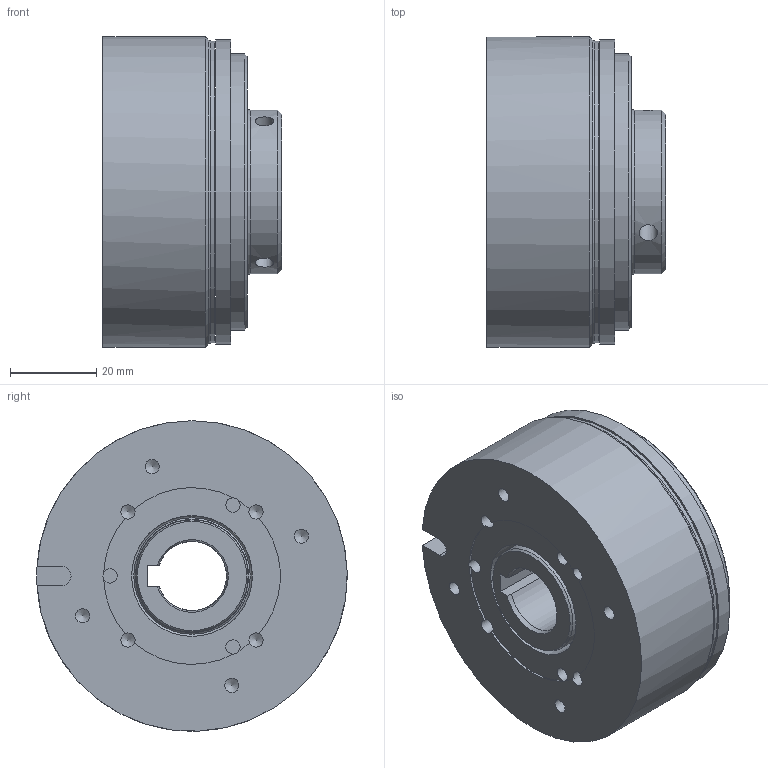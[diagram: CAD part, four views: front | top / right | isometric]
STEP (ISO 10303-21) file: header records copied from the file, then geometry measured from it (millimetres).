
FILE_DESCRIPTION (( 'STEP AP203' ), '1' );
FILE_NAME ('86_61107P00-0011_Idx_h.STEP', '2022-02-15T13:20:34', ( '' ), ( '' ), 'SwSTEP 2.0', 'SolidWorks 2018', '' );
FILE_SCHEMA (( 'CONFIG_CONTROL_DESIGN' ));
Length unit declared in the file: millimetre
Products named in the file (1): 86_61107P00-0011_Idx_h
Bounding box: 41.52 x 72 x 72 mm (x, y, z)
Volume: 126076.2 mm3; surface area: 30397.1 mm2
Topology: 2 solids, 2 shells, 78 faces, 192 edges, 120 vertices
Faces by surface type: cylinder 36, plane 20, cone 16, torus 6
Full cylindrical faces by diameter (mm): 3.3 x11, 4.2 x3, 26 x1, 27 x1, 28 x1, 28.5 x1, 29.5 x1, 30 x1, 38 x1, 55.5 x1, 64 x1, 70 x1, 70.5 x1, 72 x1
Entity records: 2309 total; most frequent: CARTESIAN_POINT 610, DIRECTION 364, ORIENTED_EDGE 260, AXIS2_PLACEMENT_3D 164, EDGE_LOOP 136, EDGE_CURVE 130, FACE_OUTER_BOUND 110, VERTEX_POINT 104
